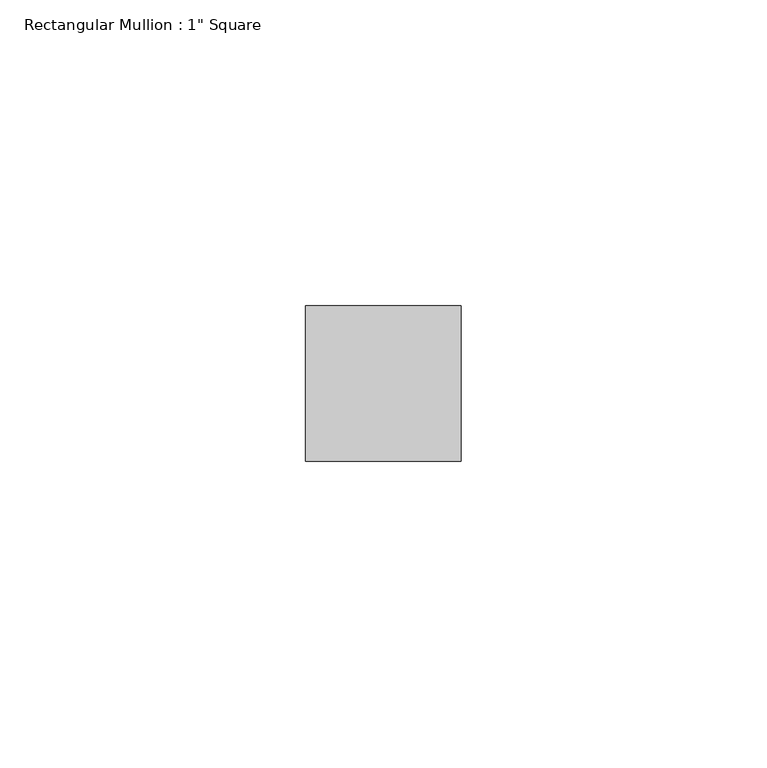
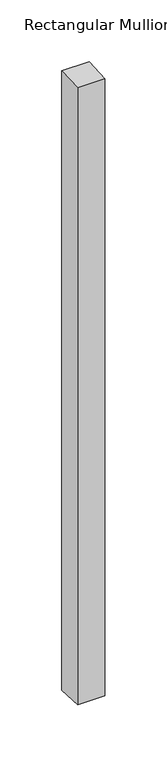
"""IFC4 building model written with IfcOpenShell, lengths in millimetres: member geometry."""

from ifc_helpers import new_model, si_unit, origin, place, context, project, spatial, faceted_brep, source, transform, mapped, element, save


def member_cfe416e1(model_context):
    return source(origin(), model_context, "Body", "Brep", [
        faceted_brep([(-25.4, 12.7, 0.4898074), (0.0, 12.7, 0.528295), (0.0, 12.7, -610.3582383), (-25.4, 12.7, -610.3029987), (-25.4, -12.7, -0.5667826), (-25.4, -12.7, -608.7865222), (0.0, -12.7, -0.528295), (0.0, -12.7, -608.8417617)], [[[0, 1, 2, 3]], [[4, 0, 3, 5]], [[6, 4, 5, 7]], [[1, 6, 7, 2]], [[1, 0, 4, 6]], [[2, 7, 5, 3]]]),
    ])


if __name__ == "__main__":
    model = new_model("IFC4")
    model_context = context("Model", 3, world=origin())
    ifc_project = project(units=[si_unit("LENGTHUNIT", "METRE", prefix="MILLI")], contexts=[model_context])
    site = spatial("IfcSite", under=ifc_project)
    building = spatial("IfcBuilding", under=site)
    placement = place(None, origin())
    member_shape = member_cfe416e1(model_context)
    element("IfcMember", 1, ObjectType="Rectangular Mullion : 1\" Square", at=placement, inside=building, context=model_context, shape_type="MappedRepresentation", body=[
        mapped(member_shape, transform((0.0, 0.0, 0.0), x_axis=(1.0, 0.0, 0.0), y_axis=(0.0, 1.0, 0.0), z_axis=(0.0, 0.0, 1.0))),
    ])
    save(model, "model.ifc")
